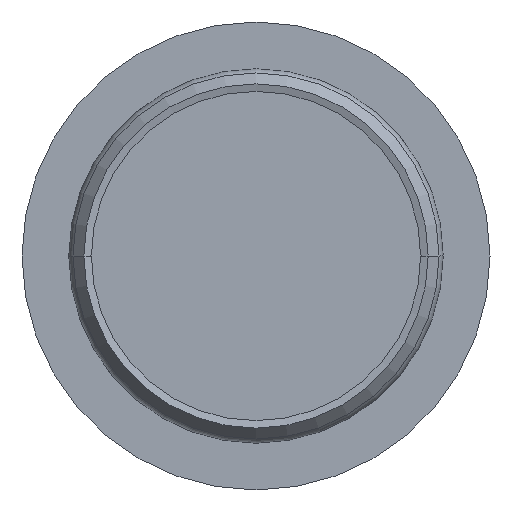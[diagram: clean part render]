
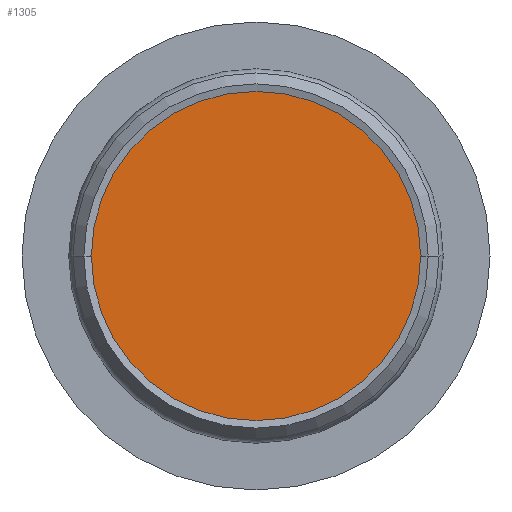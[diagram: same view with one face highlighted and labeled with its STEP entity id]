
A CAD part, front view. The second image highlights one B-rep face of the part: STEP entity #1305.
In plain terms, the highlighted planar face has unit normal (0, -1, 0).
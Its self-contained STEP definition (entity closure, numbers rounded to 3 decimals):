
#376=CARTESIAN_POINT('',(-37.124,-50.647,
-5.652));
#377=DIRECTION('',(0.,-1.,0.));
#378=DIRECTION('',(-1.,0.,0.));
#379=AXIS2_PLACEMENT_3D('',#376,#377,#378);
#410=CARTESIAN_POINT('',(-37.124,-50.647,
-5.652));
#411=DIRECTION('',(0.,-1.,0.));
#412=DIRECTION('',(1.,0.,0.));
#413=AXIS2_PLACEMENT_3D('',#410,#411,#412);
#979=CARTESIAN_POINT('',(-56.124,-50.647,
-5.651));
#980=CARTESIAN_POINT('',(-18.124,-50.647,
-5.652));
#981=VERTEX_POINT('',#979);
#982=VERTEX_POINT('',#980);
#1295=CARTESIAN_POINT('',(-37.124,-50.647,
-5.652));
#1296=DIRECTION('',(0.,-1.,0.));
#1297=DIRECTION('',(0.,0.,1.));
#1298=AXIS2_PLACEMENT_3D('',#1295,#1296,#1297);
#1299=PLANE('',#1298);
#1300=ORIENTED_EDGE('',*,*,#1285,.F.);
#1302=ORIENTED_EDGE('',*,*,#1301,.F.);
#1303=EDGE_LOOP('',(#1300,#1302));
#1304=FACE_OUTER_BOUND('',#1303,.F.);
#380=CIRCLE('',#379,19.);
#414=CIRCLE('',#413,19.);
#1285=EDGE_CURVE('',#981,#982,#380,.T.);
#1301=EDGE_CURVE('',#982,#981,#414,.T.);
#1305=ADVANCED_FACE('',(#1304),#1299,.T.);
